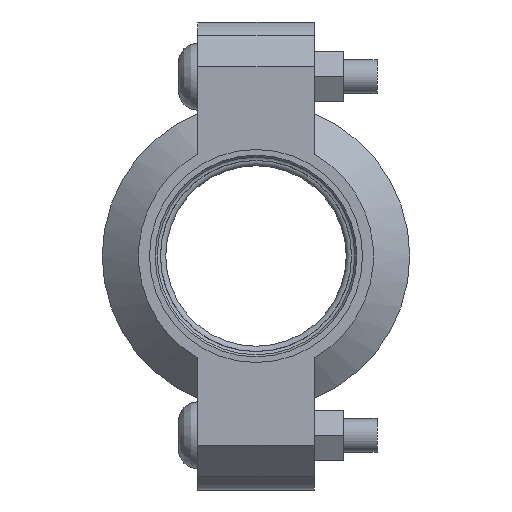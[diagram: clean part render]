
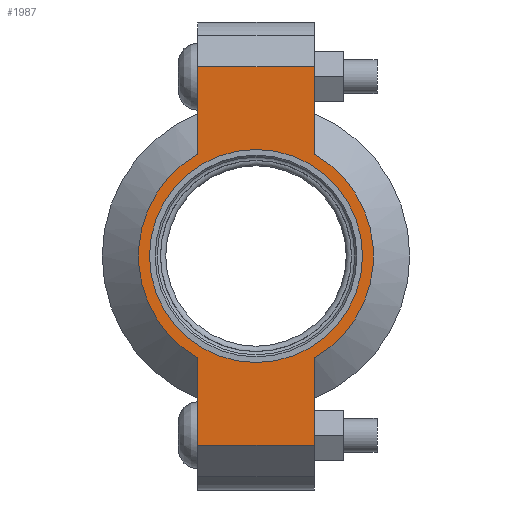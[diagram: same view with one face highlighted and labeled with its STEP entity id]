
A CAD part, left-side view. The second image highlights one B-rep face of the part: STEP entity #1987.
In plain terms, the highlighted planar face has unit normal (-1, 0, 0) as drawn and (0, 0, 1) by its records, which use the part's own axes.
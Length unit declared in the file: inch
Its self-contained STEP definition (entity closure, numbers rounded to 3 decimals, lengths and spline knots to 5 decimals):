
#176=LINE('',#3521,#273);
#184=LINE('',#3557,#281);
#191=LINE('',#3578,#288);
#200=LINE('',#3610,#297);
#201=LINE('',#3614,#298);
#202=LINE('',#3616,#299);
#273=VECTOR('',#2865,0.3937);
#281=VECTOR('',#2881,0.3937);
#288=VECTOR('',#2900,0.3937);
#297=VECTOR('',#2925,0.3937);
#298=VECTOR('',#2930,0.3937);
#299=VECTOR('',#2931,0.3937);
#355=FACE_BOUND('',#605,.T.);
#399=PLANE('',#2326);
#487=FACE_OUTER_BOUND('',#604,.T.);
#604=EDGE_LOOP('',(#1708,#1709,#1710,#1711,#1712,#1713,#1714,#1715));
#605=EDGE_LOOP('',(#1716));
#777=CIRCLE('',#2327,1.31);
#778=CIRCLE('',#2328,1.31);
#779=CIRCLE('',#2329,1.1875);
#941=VERTEX_POINT('',#3518);
#942=VERTEX_POINT('',#3520);
#953=VERTEX_POINT('',#3552);
#954=VERTEX_POINT('',#3556);
#961=VERTEX_POINT('',#3575);
#962=VERTEX_POINT('',#3577);
#972=VERTEX_POINT('',#3613);
#973=VERTEX_POINT('',#3615);
#974=VERTEX_POINT('',#3618);
#1186=EDGE_CURVE('',#942,#941,#176,.T.);
#1200=EDGE_CURVE('',#954,#953,#184,.T.);
#1210=EDGE_CURVE('',#962,#961,#191,.T.);
#1225=EDGE_CURVE('',#954,#941,#200,.T.);
#1226=EDGE_CURVE('',#953,#962,#777,.T.);
#1227=EDGE_CURVE('',#972,#961,#201,.T.);
#1228=EDGE_CURVE('',#972,#973,#202,.T.);
#1229=EDGE_CURVE('',#973,#942,#778,.T.);
#1230=EDGE_CURVE('',#974,#974,#779,.T.);
#1708=ORIENTED_EDGE('',*,*,#1225,.F.);
#1709=ORIENTED_EDGE('',*,*,#1200,.T.);
#1710=ORIENTED_EDGE('',*,*,#1226,.T.);
#1711=ORIENTED_EDGE('',*,*,#1210,.T.);
#1712=ORIENTED_EDGE('',*,*,#1227,.F.);
#1713=ORIENTED_EDGE('',*,*,#1228,.T.);
#1714=ORIENTED_EDGE('',*,*,#1229,.T.);
#1715=ORIENTED_EDGE('',*,*,#1186,.T.);
#1716=ORIENTED_EDGE('',*,*,#1230,.T.);
#1987=ADVANCED_FACE('',(#487,#355),#399,.T.);
#2326=AXIS2_PLACEMENT_3D('',#3611,#2926,#2927);
#2327=AXIS2_PLACEMENT_3D('',#3612,#2928,#2929);
#2328=AXIS2_PLACEMENT_3D('',#3617,#2932,#2933);
#2329=AXIS2_PLACEMENT_3D('',#3619,#2934,#2935);
#2865=DIRECTION('',(1.,0.,0.));
#2881=DIRECTION('',(-1.,0.,0.));
#2900=DIRECTION('',(-1.,0.,0.));
#2925=DIRECTION('',(0.,-1.,0.));
#2926=DIRECTION('center_axis',(0.,0.,1.));
#2927=DIRECTION('ref_axis',(-1.,0.,0.));
#2928=DIRECTION('center_axis',(0.,0.,1.));
#2929=DIRECTION('ref_axis',(1.,0.,0.));
#2930=DIRECTION('',(0.,1.,0.));
#2931=DIRECTION('',(1.,0.,0.));
#2932=DIRECTION('center_axis',(0.,0.,1.));
#2933=DIRECTION('ref_axis',(1.,0.,0.));
#2934=DIRECTION('center_axis',(0.,0.,-1.));
#2935=DIRECTION('ref_axis',(1.,0.,0.));
#3518=CARTESIAN_POINT('',(2.11,-0.65,0.94));
#3520=CARTESIAN_POINT('',(1.13737,-0.65,0.94));
#3521=CARTESIAN_POINT('',(2.61,-0.65,0.94));
#3552=CARTESIAN_POINT('',(1.13737,0.65,0.94));
#3556=CARTESIAN_POINT('',(2.11,0.65,0.94));
#3557=CARTESIAN_POINT('',(-2.61,0.65,0.94));
#3575=CARTESIAN_POINT('',(-2.11,0.65,0.94));
#3577=CARTESIAN_POINT('',(-1.13737,0.65,0.94));
#3578=CARTESIAN_POINT('',(-2.61,0.65,0.94));
#3610=CARTESIAN_POINT('',(2.11,-0.325,0.94));
#3611=CARTESIAN_POINT('Origin',(0.,0.,
0.94));
#3612=CARTESIAN_POINT('Origin',(0.,0.,0.94));
#3613=CARTESIAN_POINT('',(-2.11,-0.65,0.94));
#3614=CARTESIAN_POINT('',(-2.11,0.325,0.94));
#3615=CARTESIAN_POINT('',(-1.13737,-0.65,0.94));
#3616=CARTESIAN_POINT('',(2.61,-0.65,0.94));
#3617=CARTESIAN_POINT('Origin',(0.,0.,0.94));
#3618=CARTESIAN_POINT('',(-1.1875,0.,0.94));
#3619=CARTESIAN_POINT('Origin',(0.,0.,0.94));
